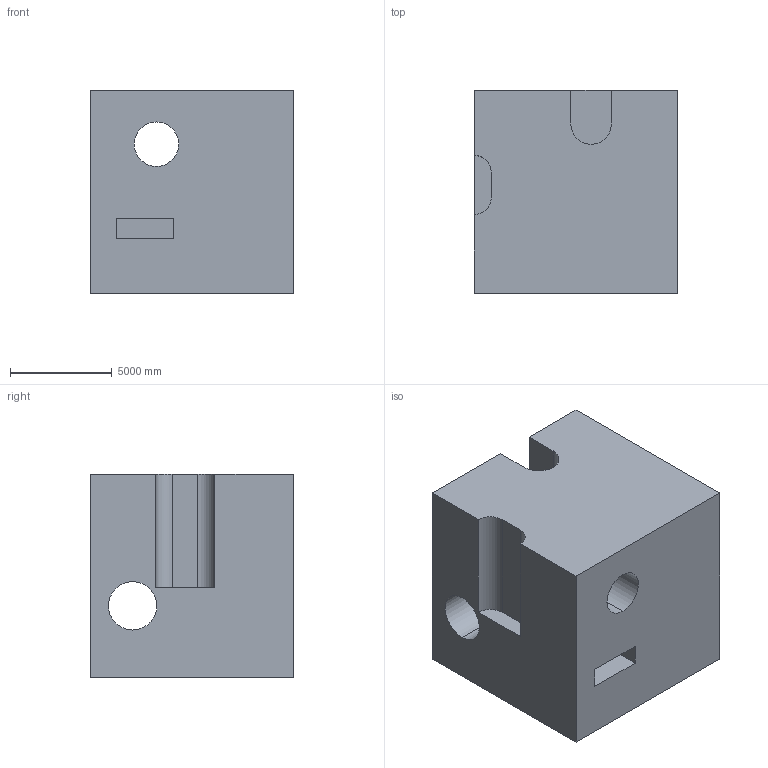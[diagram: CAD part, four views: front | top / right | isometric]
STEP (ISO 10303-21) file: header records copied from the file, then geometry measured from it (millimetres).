
FILE_DESCRIPTION (( 'STEP AP203' ), '1' );
FILE_NAME ('1411.STEP', '2022-08-18T14:19:06', ( 'user' ), ( '' ), 'SwSTEP 2.0', 'SolidWorks 2021', '' );
FILE_SCHEMA (( 'CONFIG_CONTROL_DESIGN' ));
Length unit declared in the file: centimetre
Products named in the file (1): 1411
Bounding box: 10000 x 10000 x 10000 mm (x, y, z)
Volume: 877520457490.7 mm3; surface area: 790476397.5 mm2
Topology: 1 solids, 1 shells, 23 faces, 60 edges, 40 vertices
Faces by surface type: plane 16, cylinder 7
Entity records: 793 total; most frequent: CARTESIAN_POINT 124, DIRECTION 122, ORIENTED_EDGE 120, EDGE_CURVE 60, LINE 46, VECTOR 46, VERTEX_POINT 40, AXIS2_PLACEMENT_3D 38
